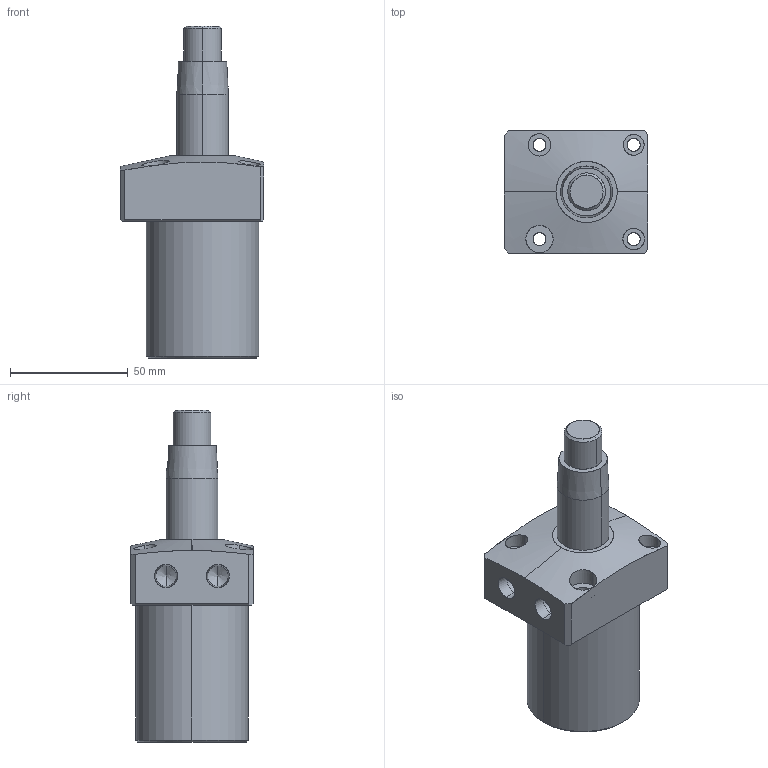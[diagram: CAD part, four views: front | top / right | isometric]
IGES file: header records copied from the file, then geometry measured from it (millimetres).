
Start section: SolidWorks IGES file using analytic representation for surfaces
Global section: file name: E:\ALL SSVT IGS MODEL\ALL-SWING-IGS\48-SWING\SWING-48-TOP-TAPER-LH-RH\SC02-482-L-TOP.IGS; native system: SolidWorks 2019; preprocessor: SolidWorks 2019; author: SSVT; date: 210822.120218; units: millimetre
Bounding box: 61 x 52 x 141 mm (x, y, z)
Surface area: 34843.6 mm2 (no closed solid volume)
Topology: 0 solids, 0 shells, 77 faces, 1516 edges, 1512 vertices
Faces by surface type: revolution 48, bspline 29
